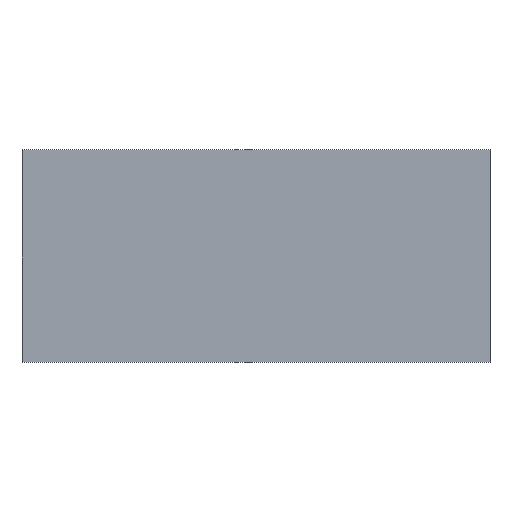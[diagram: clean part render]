
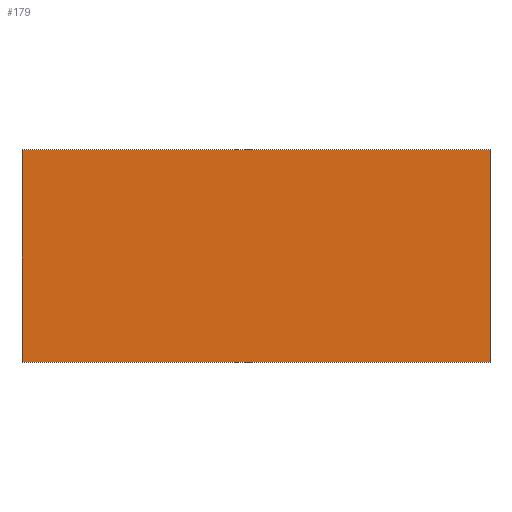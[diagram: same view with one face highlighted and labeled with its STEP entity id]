
A CAD part, top view. The second image highlights one B-rep face of the part: STEP entity #179.
In plain terms, the highlighted planar face has unit normal (0, 0, 1).
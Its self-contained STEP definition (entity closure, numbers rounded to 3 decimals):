
#12 = LINE ( 'NONE', #84, #174 ) ;
#13 = PLANE ( 'NONE',  #173 ) ;
#21 = VERTEX_POINT ( 'NONE', #56 ) ;
#22 = LINE ( 'NONE', #39, #172 ) ;
#26 = DIRECTION ( 'NONE',  ( -1., 0., 0. ) ) ;
#28 = CARTESIAN_POINT ( 'NONE',  ( 0., 50., 1. ) ) ;
#36 = CARTESIAN_POINT ( 'NONE',  ( 110., 0., 1. ) ) ;
#39 = CARTESIAN_POINT ( 'NONE',  ( 110., 0., 1. ) ) ;
#42 = CARTESIAN_POINT ( 'NONE',  ( 0., 0., 1. ) ) ;
#43 = EDGE_LOOP ( 'NONE', ( #90, #80, #98, #141 ) ) ;
#50 = VERTEX_POINT ( 'NONE', #36 ) ;
#56 = CARTESIAN_POINT ( 'NONE',  ( 0., 0., 1. ) ) ;
#59 = CARTESIAN_POINT ( 'NONE',  ( 0., 0., 1. ) ) ;
#71 = VERTEX_POINT ( 'NONE', #28 ) ;
#72 = DIRECTION ( 'NONE',  ( 1., 0., 0. ) ) ;
#79 = DIRECTION ( 'NONE',  ( 0., 0., -1. ) ) ;
#80 = ORIENTED_EDGE ( 'NONE', *, *, #196, .T. ) ;
#84 = CARTESIAN_POINT ( 'NONE',  ( 0., 50., 1. ) ) ;
#86 = VERTEX_POINT ( 'NONE', #116 ) ;
#88 = LINE ( 'NONE', #59, #160 ) ;
#90 = ORIENTED_EDGE ( 'NONE', *, *, #193, .T. ) ;
#95 = DIRECTION ( 'NONE',  ( 0., -1., 0. ) ) ;
#96 = LINE ( 'NONE', #42, #164 ) ;
#98 = ORIENTED_EDGE ( 'NONE', *, *, #185, .T. ) ;
#104 = CARTESIAN_POINT ( 'NONE',  ( 0., 50., 1. ) ) ;
#116 = CARTESIAN_POINT ( 'NONE',  ( 110., 50., 1. ) ) ;
#130 = DIRECTION ( 'NONE',  ( 0., 1., 0. ) ) ;
#133 = FACE_OUTER_BOUND ( 'NONE', #43, .T. ) ;
#134 = DIRECTION ( 'NONE',  ( -1., 0., 0. ) ) ;
#141 = ORIENTED_EDGE ( 'NONE', *, *, #189, .T. ) ;
#160 = VECTOR ( 'NONE', #95, 1000. ) ;
#164 = VECTOR ( 'NONE', #72, 1000. ) ;
#172 = VECTOR ( 'NONE', #130, 1000. ) ;
#173 = AXIS2_PLACEMENT_3D ( 'NONE', #104, #79, #134 ) ;
#174 = VECTOR ( 'NONE', #26, 1000. ) ;
#179 = ADVANCED_FACE ( 'NONE', ( #133 ), #13, .F. ) ;
#185 = EDGE_CURVE ( 'NONE', #50, #86, #22, .T. ) ;
#189 = EDGE_CURVE ( 'NONE', #86, #71, #12, .T. ) ;
#193 = EDGE_CURVE ( 'NONE', #71, #21, #88, .T. ) ;
#196 = EDGE_CURVE ( 'NONE', #21, #50, #96, .T. ) ;
